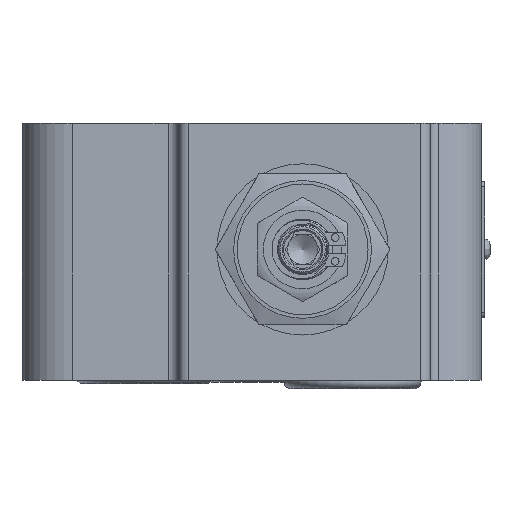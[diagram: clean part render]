
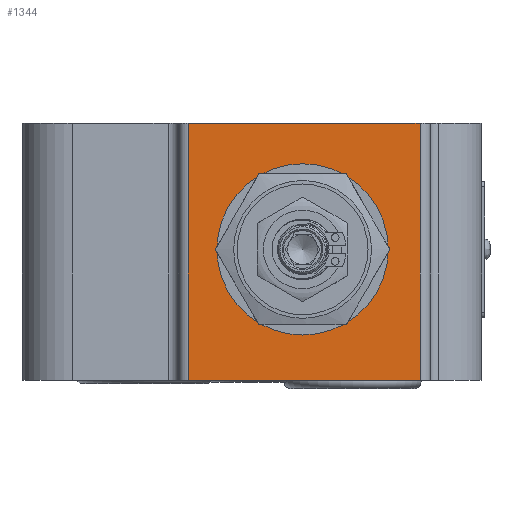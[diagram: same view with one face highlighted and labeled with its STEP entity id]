
A CAD part, left-side view. The second image highlights one B-rep face of the part: STEP entity #1344.
In plain terms, the highlighted planar face has unit normal (-1, 0, 0).
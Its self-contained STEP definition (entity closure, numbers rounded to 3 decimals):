
#772=FACE_BOUND('',#2328,.T.);
#773=FACE_BOUND('',#2329,.T.);
#1344=ADVANCED_FACE('',(#772,#773),#1672,.T.);
#1672=PLANE('',#7133);
#2328=EDGE_LOOP('',(#4092));
#2329=EDGE_LOOP('',(#4093,#4094,#4095,#4096));
#2761=LINE('',#18450,#3123);
#2775=LINE('',#18541,#3137);
#2794=LINE('',#18610,#3156);
#2795=LINE('',#18614,#3157);
#3123=VECTOR('',#8160,1.);
#3137=VECTOR('',#8238,1.);
#3156=VECTOR('',#8323,1.);
#3157=VECTOR('',#8328,1.);
#4092=ORIENTED_EDGE('',*,*,#6056,.F.);
#4093=ORIENTED_EDGE('',*,*,#6021,.F.);
#4094=ORIENTED_EDGE('',*,*,#6055,.F.);
#4095=ORIENTED_EDGE('',*,*,#5976,.T.);
#4096=ORIENTED_EDGE('',*,*,#6057,.T.);
#5286=VERTEX_POINT('',#18449);
#5287=VERTEX_POINT('',#18451);
#5331=VERTEX_POINT('',#18540);
#5332=VERTEX_POINT('',#18542);
#5349=VERTEX_POINT('',#18613);
#5976=EDGE_CURVE('',#5287,#5286,#2761,.T.);
#6021=EDGE_CURVE('',#5331,#5332,#2775,.T.);
#6055=EDGE_CURVE('',#5287,#5331,#2794,.T.);
#6056=EDGE_CURVE('',#5349,#5349,#6688,.T.);
#6057=EDGE_CURVE('',#5286,#5332,#2795,.T.);
#6688=CIRCLE('',#7132,17.);
#7132=AXIS2_PLACEMENT_3D('',#18612,#8326,#8327);
#7133=AXIS2_PLACEMENT_3D('',#18615,#8329,#8330);
#8160=DIRECTION('',(0.,1.,0.));
#8238=DIRECTION('',(0.,1.,0.));
#8323=DIRECTION('',(0.,0.,-1.));
#8326=DIRECTION('',(-1.,0.,0.));
#8327=DIRECTION('',(0.,0.,1.));
#8328=DIRECTION('',(0.,0.,-1.));
#8329=DIRECTION('',(-1.,0.,0.));
#8330=DIRECTION('',(0.,1.,0.));
#18449=CARTESIAN_POINT('',(34.725,32.729,81.));
#18450=CARTESIAN_POINT('',(34.725,-13.271,81.));
#18451=CARTESIAN_POINT('',(34.725,-13.271,81.));
#18540=CARTESIAN_POINT('',(34.725,-13.271,30.));
#18541=CARTESIAN_POINT('',(34.725,-13.271,30.));
#18542=CARTESIAN_POINT('',(34.725,32.729,30.));
#18610=CARTESIAN_POINT('',(34.725,-13.271,81.));
#18612=CARTESIAN_POINT('',(34.725,10.038,56.));
#18613=CARTESIAN_POINT('',(34.725,10.038,73.));
#18614=CARTESIAN_POINT('',(34.725,32.729,81.));
#18615=CARTESIAN_POINT('',(34.725,-13.271,81.));
